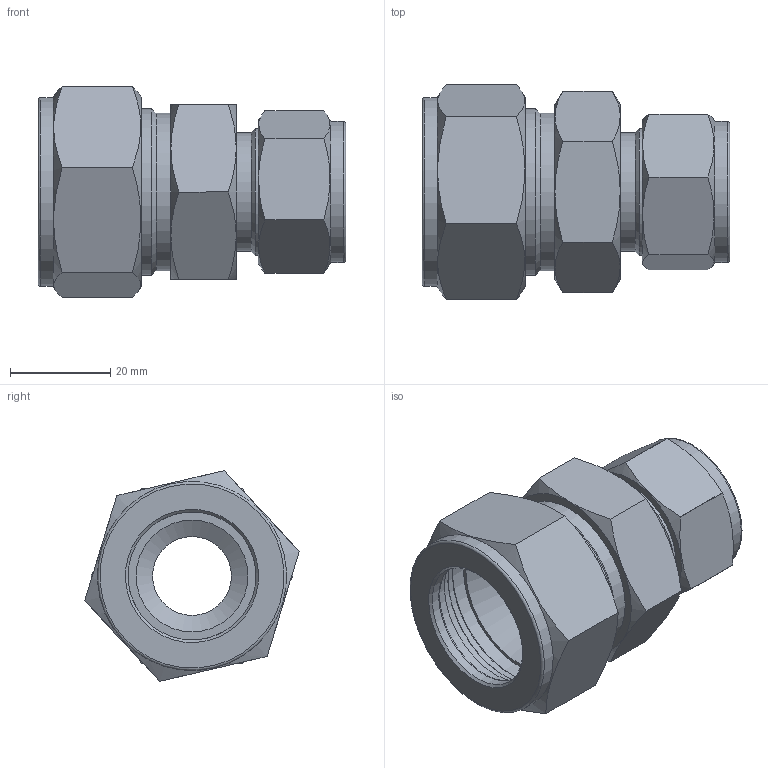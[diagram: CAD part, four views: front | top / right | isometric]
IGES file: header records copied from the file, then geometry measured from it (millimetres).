
Global section: file name: No Iges File Name specified; native system: Autodesk Inventor 2012; preprocessor: AutoDesk Inventor Iges Exporter R2012; author: 硅己绕,,1; organization: 1; date: 20150422.183017; units: millimetre
Bounding box: 61.45 x 42.86 x 42.08 mm (x, y, z)
Volume: 28225.3 mm3; surface area: 17794.1 mm2
Topology: 3 solids, 3 shells, 96 faces, 199 edges, 119 vertices
Faces by surface type: plane 34, revolution 24, cone 20, cylinder 14, torus 4
Full cylindrical faces by diameter (mm): 23.7 x1, 23.8 x1, 25.4 x1, 28.2 x1, 31.45 x2, 33.34 x1, 37.8 x1
